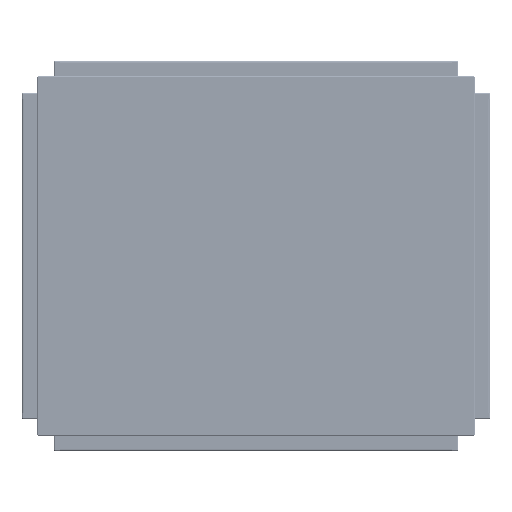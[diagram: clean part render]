
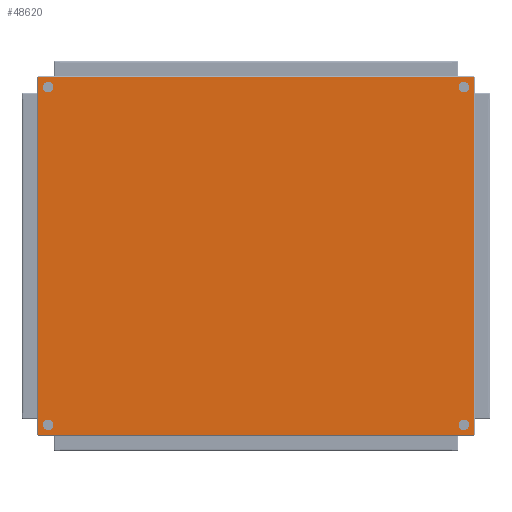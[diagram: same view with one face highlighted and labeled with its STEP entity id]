
A CAD part, left-side view. The second image highlights one B-rep face of the part: STEP entity #48620.
In plain terms, the highlighted planar face has unit normal (-1, 0, 0) as drawn and (0, 0, -1) by its records, which use the part's own axes.
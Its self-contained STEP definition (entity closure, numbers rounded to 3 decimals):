
#853 = CARTESIAN_POINT ( 'NONE',  ( -216.42, -266.42, -1.5 ) ) ;
#1180 = CIRCLE ( 'NONE', #59454, 6.75 ) ;
#1738 = ORIENTED_EDGE ( 'NONE', *, *, #3559, .F. ) ;
#2487 = CARTESIAN_POINT ( 'NONE',  ( -209.67, 266.42, -1.5 ) ) ;
#2492 = ORIENTED_EDGE ( 'NONE', *, *, #49956, .F. ) ;
#3559 = EDGE_CURVE ( 'NONE', #8982, #56023, #32914, .T. ) ;
#4145 = FACE_BOUND ( 'NONE', #8060, .T. ) ;
#4771 = DIRECTION ( 'NONE',  ( 1., 0., 0. ) ) ;
#5557 = VERTEX_POINT ( 'NONE', #56330 ) ;
#5665 = CIRCLE ( 'NONE', #26227, 6.75 ) ;
#6424 = DIRECTION ( 'NONE',  ( -1., 0., 0. ) ) ;
#6455 = ORIENTED_EDGE ( 'NONE', *, *, #41975, .F. ) ;
#7349 = ORIENTED_EDGE ( 'NONE', *, *, #65813, .F. ) ;
#7440 = CARTESIAN_POINT ( 'NONE',  ( -229., 279., -1.5 ) ) ;
#8060 = EDGE_LOOP ( 'NONE', ( #30309, #40930 ) ) ;
#8339 = ORIENTED_EDGE ( 'NONE', *, *, #52599, .F. ) ;
#8890 = PLANE ( 'NONE',  #24601 ) ;
#8982 = VERTEX_POINT ( 'NONE', #46367 ) ;
#9057 = CARTESIAN_POINT ( 'NONE',  ( -216.42, 266.42, -1.5 ) ) ;
#10783 = VERTEX_POINT ( 'NONE', #52095 ) ;
#10824 = CARTESIAN_POINT ( 'NONE',  ( -216.42, 266.42, -1.5 ) ) ;
#11307 = DIRECTION ( 'NONE',  ( 0., 0., -1. ) ) ;
#11386 = VERTEX_POINT ( 'NONE', #24896 ) ;
#11406 = CARTESIAN_POINT ( 'NONE',  ( -229., 279., -1.5 ) ) ;
#12415 = DIRECTION ( 'NONE',  ( 0., -1., 0. ) ) ;
#13393 = DIRECTION ( 'NONE',  ( -1., 0., 0. ) ) ;
#13574 = DIRECTION ( 'NONE',  ( 1., 0., 0. ) ) ;
#13950 = CARTESIAN_POINT ( 'NONE',  ( 229., -279., -1.5 ) ) ;
#14042 = ORIENTED_EDGE ( 'NONE', *, *, #38388, .F. ) ;
#14145 = EDGE_CURVE ( 'NONE', #23340, #54416, #20190, .T. ) ;
#14839 = DIRECTION ( 'NONE',  ( -1., 0., 0. ) ) ;
#15182 = AXIS2_PLACEMENT_3D ( 'NONE', #54285, #23184, #13393 ) ;
#17752 = AXIS2_PLACEMENT_3D ( 'NONE', #9057, #34964, #39999 ) ;
#18170 = DIRECTION ( 'NONE',  ( 0., 0., -1. ) ) ;
#18817 = CARTESIAN_POINT ( 'NONE',  ( 216.42, 266.42, -1.5 ) ) ;
#19002 = VECTOR ( 'NONE', #54500, 1000. ) ;
#20190 = CIRCLE ( 'NONE', #39339, 6.75 ) ;
#20736 = VERTEX_POINT ( 'NONE', #13950 ) ;
#20863 = CIRCLE ( 'NONE', #38431, 6.75 ) ;
#22876 = AXIS2_PLACEMENT_3D ( 'NONE', #853, #11307, #52893 ) ;
#22979 = CIRCLE ( 'NONE', #22876, 6.75 ) ;
#23045 = LINE ( 'NONE', #59495, #19002 ) ;
#23184 = DIRECTION ( 'NONE',  ( 0., 0., -1. ) ) ;
#23340 = VERTEX_POINT ( 'NONE', #60215 ) ;
#24433 = VERTEX_POINT ( 'NONE', #59411 ) ;
#24601 = AXIS2_PLACEMENT_3D ( 'NONE', #51111, #55661, #35716 ) ;
#24896 = CARTESIAN_POINT ( 'NONE',  ( -209.67, -266.42, -1.5 ) ) ;
#25122 = CARTESIAN_POINT ( 'NONE',  ( -216.42, -266.42, -1.5 ) ) ;
#25700 = EDGE_CURVE ( 'NONE', #56023, #24433, #44881, .T. ) ;
#26039 = DIRECTION ( 'NONE',  ( 0., 0., -1. ) ) ;
#26227 = AXIS2_PLACEMENT_3D ( 'NONE', #64548, #43015, #38518 ) ;
#26612 = VECTOR ( 'NONE', #4771, 1000. ) ;
#26704 = DIRECTION ( 'NONE',  ( -1., 0., 0. ) ) ;
#27339 = CARTESIAN_POINT ( 'NONE',  ( -223.17, 266.42, -1.5 ) ) ;
#29090 = EDGE_CURVE ( 'NONE', #11386, #5557, #22979, .T. ) ;
#30309 = ORIENTED_EDGE ( 'NONE', *, *, #53263, .F. ) ;
#30719 = CARTESIAN_POINT ( 'NONE',  ( 216.42, -266.42, -1.5 ) ) ;
#31173 = AXIS2_PLACEMENT_3D ( 'NONE', #25122, #41309, #66968 ) ;
#31794 = FACE_OUTER_BOUND ( 'NONE', #37584, .T. ) ;
#32914 = LINE ( 'NONE', #11406, #63810 ) ;
#33362 = VERTEX_POINT ( 'NONE', #2487 ) ;
#33427 = FACE_BOUND ( 'NONE', #33938, .T. ) ;
#33883 = ORIENTED_EDGE ( 'NONE', *, *, #25700, .F. ) ;
#33922 = EDGE_LOOP ( 'NONE', ( #2492, #56669 ) ) ;
#33938 = EDGE_LOOP ( 'NONE', ( #42698, #6455 ) ) ;
#34267 = VERTEX_POINT ( 'NONE', #27339 ) ;
#34964 = DIRECTION ( 'NONE',  ( 0., 0., -1. ) ) ;
#35716 = DIRECTION ( 'NONE',  ( 1., 0., 0. ) ) ;
#35814 = EDGE_CURVE ( 'NONE', #10783, #53794, #5665, .T. ) ;
#37584 = EDGE_LOOP ( 'NONE', ( #33883, #1738, #7349, #8339 ) ) ;
#38388 = EDGE_CURVE ( 'NONE', #53794, #10783, #1180, .T. ) ;
#38431 = AXIS2_PLACEMENT_3D ( 'NONE', #10824, #26039, #26704 ) ;
#38518 = DIRECTION ( 'NONE',  ( 1., 0., 0. ) ) ;
#39339 = AXIS2_PLACEMENT_3D ( 'NONE', #30719, #61597, #14839 ) ;
#39999 = DIRECTION ( 'NONE',  ( -1., 0., 0. ) ) ;
#40930 = ORIENTED_EDGE ( 'NONE', *, *, #51418, .F. ) ;
#41309 = DIRECTION ( 'NONE',  ( 0., 0., -1. ) ) ;
#41975 = EDGE_CURVE ( 'NONE', #54416, #23340, #64864, .T. ) ;
#42391 = FACE_BOUND ( 'NONE', #33922, .T. ) ;
#42698 = ORIENTED_EDGE ( 'NONE', *, *, #14145, .F. ) ;
#42886 = CARTESIAN_POINT ( 'NONE',  ( 223.17, -266.42, -1.5 ) ) ;
#43015 = DIRECTION ( 'NONE',  ( 0., 0., -1. ) ) ;
#43800 = CIRCLE ( 'NONE', #31173, 6.75 ) ;
#44881 = LINE ( 'NONE', #7440, #60290 ) ;
#45570 = CIRCLE ( 'NONE', #17752, 6.75 ) ;
#46367 = CARTESIAN_POINT ( 'NONE',  ( 229., 279., -1.5 ) ) ;
#48620 = ADVANCED_FACE ( 'NONE', ( #42391, #62686, #33427, #4145, #31794 ), #8890, .F. ) ;
#49956 = EDGE_CURVE ( 'NONE', #5557, #11386, #43800, .T. ) ;
#51111 = CARTESIAN_POINT ( 'NONE',  ( 0., 0., -1.5 ) ) ;
#51168 = ORIENTED_EDGE ( 'NONE', *, *, #35814, .F. ) ;
#51418 = EDGE_CURVE ( 'NONE', #33362, #34267, #45570, .T. ) ;
#51592 = CARTESIAN_POINT ( 'NONE',  ( -229., -279., -1.5 ) ) ;
#52095 = CARTESIAN_POINT ( 'NONE',  ( 209.67, 266.42, -1.5 ) ) ;
#52599 = EDGE_CURVE ( 'NONE', #24433, #20736, #57529, .T. ) ;
#52893 = DIRECTION ( 'NONE',  ( 1., 0., 0. ) ) ;
#53263 = EDGE_CURVE ( 'NONE', #34267, #33362, #20863, .T. ) ;
#53794 = VERTEX_POINT ( 'NONE', #67364 ) ;
#54285 = CARTESIAN_POINT ( 'NONE',  ( 216.42, -266.42, -1.5 ) ) ;
#54416 = VERTEX_POINT ( 'NONE', #42886 ) ;
#54500 = DIRECTION ( 'NONE',  ( 0., 1., 0. ) ) ;
#55038 = CARTESIAN_POINT ( 'NONE',  ( -229., 279., -1.5 ) ) ;
#55661 = DIRECTION ( 'NONE',  ( 0., 0., 1. ) ) ;
#56023 = VERTEX_POINT ( 'NONE', #55038 ) ;
#56330 = CARTESIAN_POINT ( 'NONE',  ( -223.17, -266.42, -1.5 ) ) ;
#56669 = ORIENTED_EDGE ( 'NONE', *, *, #29090, .F. ) ;
#57529 = LINE ( 'NONE', #51592, #26612 ) ;
#59411 = CARTESIAN_POINT ( 'NONE',  ( -229., -279., -1.5 ) ) ;
#59454 = AXIS2_PLACEMENT_3D ( 'NONE', #18817, #18170, #13574 ) ;
#59495 = CARTESIAN_POINT ( 'NONE',  ( 229., 279., -1.5 ) ) ;
#60215 = CARTESIAN_POINT ( 'NONE',  ( 209.67, -266.42, -1.5 ) ) ;
#60290 = VECTOR ( 'NONE', #12415, 1000. ) ;
#60651 = EDGE_LOOP ( 'NONE', ( #51168, #14042 ) ) ;
#61597 = DIRECTION ( 'NONE',  ( 0., 0., -1. ) ) ;
#62686 = FACE_BOUND ( 'NONE', #60651, .T. ) ;
#63810 = VECTOR ( 'NONE', #6424, 1000. ) ;
#64548 = CARTESIAN_POINT ( 'NONE',  ( 216.42, 266.42, -1.5 ) ) ;
#64864 = CIRCLE ( 'NONE', #15182, 6.75 ) ;
#65813 = EDGE_CURVE ( 'NONE', #20736, #8982, #23045, .T. ) ;
#66968 = DIRECTION ( 'NONE',  ( 1., 0., 0. ) ) ;
#67364 = CARTESIAN_POINT ( 'NONE',  ( 223.17, 266.42, -1.5 ) ) ;
